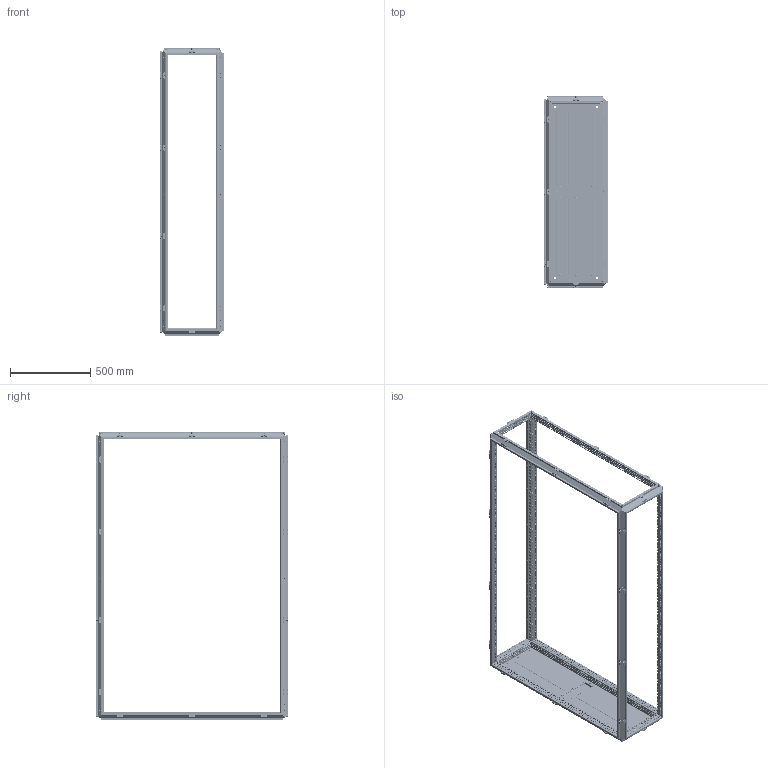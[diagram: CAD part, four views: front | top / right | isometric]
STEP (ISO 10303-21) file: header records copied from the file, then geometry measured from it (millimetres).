
FILE_DESCRIPTION(('STEP AP203'), '1');
FILE_NAME('3000 忺謤僔 捘', '', ('UNSPECIFIED'), ('UNSPECIFIED'), 'C3D Converter', 'C3D Toolkit', '');
FILE_SCHEMA(('CONFIG_CONTROL_DESIGN'));
Length unit declared in the file: millimetre
Products named in the file (13): 3000.180.120.40 СБ; 3000; 3007.175; 3007.75; 3006; 3009.04; 3009.04.01; 3009.04.2; 3009.04.01.2
Assembly tree (138 placements, depth 3):
  3000.180.120.40 СБ
    3000
    (unnamed)  x88
    3007.175  x2
    (unnamed)  x14
    3007.75  x2
    3006
    3009.04  x8
      3009.04.01
      (unnamed)
      (unnamed)
    3009.04.2  x13
      3009.04.01.2
      (unnamed)
      (unnamed)
Bounding box: 397 x 1197 x 1798.5 mm (x, y, z)
Volume: 4022922.6 mm3; surface area: 5327964.3 mm2
Topology: 221 solids, 221 shells, 17171 faces, 48187 edges, 31784 vertices
Faces by surface type: plane 11997, cylinder 4206, cone 624, torus 244, bspline 100
Full cylindrical faces by diameter (mm): 4.134 x122, 4.5 x1998, 4.8 x14, 5 x132, 5.8 x34, 6.8 x176, 7 x88, 7.5 x42, 8 x88, 9.2 x42, 10.106 x8, 14 x4
Entity records: 400650 total; most frequent: CARTESIAN_POINT 73867, ORIENTED_EDGE 64374, DIRECTION 60889, EDGE_CURVE 32187, LINE 26455, VECTOR 26455, VERTEX_POINT 22678, EDGE_LOOP 21987
